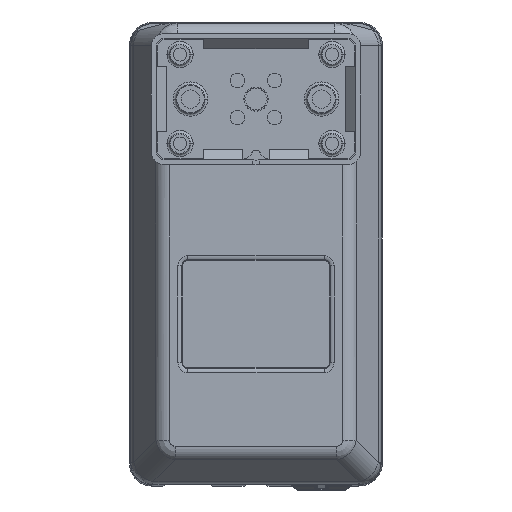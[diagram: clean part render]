
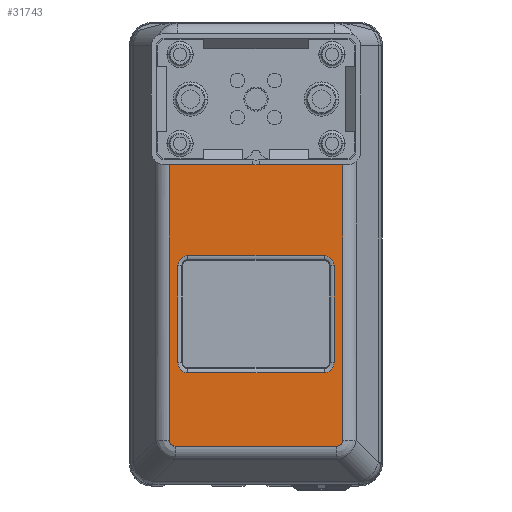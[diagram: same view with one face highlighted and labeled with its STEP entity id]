
A CAD part, front view. The second image highlights one B-rep face of the part: STEP entity #31743.
In plain terms, the highlighted planar face has unit normal (0, -1, 0) as drawn and (0, 1, 0) by its records, which use the part's own axes.
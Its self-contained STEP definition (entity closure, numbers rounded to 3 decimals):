
#20903=DIRECTION('',(-1.,0.,0.));
#20904=VECTOR('',#20903,61.725);
#20905=CARTESIAN_POINT('',(30.863,41.5,-161.378));
#20906=LINE('',#20905,#20904);
#20932=DIRECTION('',(0.,0.,-1.));
#20933=VECTOR('',#20932,109.034);
#20934=CARTESIAN_POINT('',(33.028,41.5,
-50.178));
#20935=LINE('',#20934,#20933);
#21057=CARTESIAN_POINT('',(-28.5,41.5,
-42.4));
#21058=DIRECTION('',(0.,1.,0.));
#21059=DIRECTION('',(0.,0.,-1.));
#21060=AXIS2_PLACEMENT_3D('',#21057,#21058,#21059);
#21062=CARTESIAN_POINT('',(-33.028,41.5,-159.213));
#21063=CARTESIAN_POINT('',(-33.028,41.5,-159.3));
#21064=CARTESIAN_POINT('',(-33.019,41.5,-159.481));
#21065=CARTESIAN_POINT('',(-32.977,41.5,-159.747));
#21066=CARTESIAN_POINT('',(-32.904,41.5,-160.008));
#21067=CARTESIAN_POINT('',(-32.802,41.5,-160.253));
#21068=CARTESIAN_POINT('',(-32.672,41.5,-160.478));
#21069=CARTESIAN_POINT('',(-32.515,41.5,-160.683));
#21070=CARTESIAN_POINT('',(-32.334,41.5,-160.864));
#21071=CARTESIAN_POINT('',(-32.13,41.5,-161.021));
#21072=CARTESIAN_POINT('',(-31.904,41.5,-161.151));
#21073=CARTESIAN_POINT('',(-31.66,41.5,-161.253));
#21074=CARTESIAN_POINT('',(-31.399,41.5,-161.326));
#21075=CARTESIAN_POINT('',(-31.132,41.5,-161.369));
#21076=CARTESIAN_POINT('',(-30.95,41.5,-161.378));
#21077=CARTESIAN_POINT('',(-30.863,41.5,-161.378));
#21079=CARTESIAN_POINT('',(30.863,41.5,-161.378));
#21080=CARTESIAN_POINT('',(30.95,41.5,-161.378));
#21081=CARTESIAN_POINT('',(31.132,41.5,-161.369));
#21082=CARTESIAN_POINT('',(31.399,41.5,-161.326));
#21083=CARTESIAN_POINT('',(31.66,41.5,-161.253));
#21084=CARTESIAN_POINT('',(31.904,41.5,-161.151));
#21085=CARTESIAN_POINT('',(32.13,41.5,-161.021));
#21086=CARTESIAN_POINT('',(32.334,41.5,-160.864));
#21087=CARTESIAN_POINT('',(32.515,41.5,-160.683));
#21088=CARTESIAN_POINT('',(32.672,41.5,-160.478));
#21089=CARTESIAN_POINT('',(32.802,41.5,-160.253));
#21090=CARTESIAN_POINT('',(32.904,41.5,-160.008));
#21091=CARTESIAN_POINT('',(32.977,41.5,-159.747));
#21092=CARTESIAN_POINT('',(33.019,41.5,-159.481));
#21093=CARTESIAN_POINT('',(33.028,41.5,-159.3));
#21094=CARTESIAN_POINT('',(33.028,41.5,-159.213));
#21096=CARTESIAN_POINT('',(28.5,41.5,
-42.4));
#21097=DIRECTION('',(0.,1.,0.));
#21098=DIRECTION('',(0.503,0.,-0.864));
#21099=AXIS2_PLACEMENT_3D('',#21096,#21097,#21098);
#21101=CARTESIAN_POINT('',(26.,41.5,-129.5));
#21102=DIRECTION('',(0.,1.,0.));
#21103=DIRECTION('',(1.,0.,0.));
#21104=AXIS2_PLACEMENT_3D('',#21101,#21102,#21103);
#21106=CARTESIAN_POINT('',(-26.,41.5,-129.5));
#21107=DIRECTION('',(0.,1.,0.));
#21108=DIRECTION('',(0.,0.,-1.));
#21109=AXIS2_PLACEMENT_3D('',#21106,#21107,#21108);
#21111=CARTESIAN_POINT('',(-26.,41.5,-92.5));
#21112=DIRECTION('',(0.,1.,0.));
#21113=DIRECTION('',(-1.,0.,0.));
#21114=AXIS2_PLACEMENT_3D('',#21111,#21112,#21113);
#21116=CARTESIAN_POINT('',(26.,41.5,-92.5));
#21117=DIRECTION('',(0.,1.,0.));
#21118=DIRECTION('',(0.,0.,1.));
#21119=AXIS2_PLACEMENT_3D('',#21116,#21117,#21118);
#21121=DIRECTION('',(1.,0.,0.));
#21122=VECTOR('',#21121,57.);
#21123=CARTESIAN_POINT('',(-28.5,41.5,-51.4));
#21124=LINE('',#21123,#21122);
#21298=DIRECTION('',(0.,0.,1.));
#21299=VECTOR('',#21298,109.034);
#21300=CARTESIAN_POINT('',(-33.028,41.5,-159.213));
#21301=LINE('',#21300,#21299);
#21393=DIRECTION('',(0.,0.,1.));
#21394=VECTOR('',#21393,37.);
#21395=CARTESIAN_POINT('',(29.803,41.5,-129.5));
#21396=LINE('',#21395,#21394);
#21416=DIRECTION('',(-1.,0.,0.));
#21417=VECTOR('',#21416,52.);
#21418=CARTESIAN_POINT('',(26.,41.5,-88.697));
#21419=LINE('',#21418,#21417);
#21439=DIRECTION('',(0.,0.,-1.));
#21440=VECTOR('',#21439,37.);
#21441=CARTESIAN_POINT('',(-29.803,41.5,-92.5));
#21442=LINE('',#21441,#21440);
#21462=DIRECTION('',(1.,0.,0.));
#21463=VECTOR('',#21462,52.);
#21464=CARTESIAN_POINT('',(-26.,41.5,-133.303));
#21465=LINE('',#21464,#21463);
#27947=CARTESIAN_POINT('',(-28.5,41.5,-51.4));
#27948=CARTESIAN_POINT('',(28.5,41.5,-51.4));
#27949=VERTEX_POINT('',#27947);
#27950=VERTEX_POINT('',#27948);
#27951=CARTESIAN_POINT('',(-33.028,41.5,-50.178));
#27952=VERTEX_POINT('',#27951);
#27953=CARTESIAN_POINT('',(-33.028,41.5,-159.213));
#27954=VERTEX_POINT('',#27953);
#27955=VERTEX_POINT('',#21077);
#27956=CARTESIAN_POINT('',(30.863,41.5,-161.378));
#27957=VERTEX_POINT('',#27956);
#27958=VERTEX_POINT('',#21094);
#27959=CARTESIAN_POINT('',(33.028,41.5,
-50.178));
#27960=VERTEX_POINT('',#27959);
#27961=CARTESIAN_POINT('',(29.803,41.5,-129.5));
#27962=CARTESIAN_POINT('',(26.,41.5,-133.303));
#27963=VERTEX_POINT('',#27961);
#27964=VERTEX_POINT('',#27962);
#27965=CARTESIAN_POINT('',(-26.,41.5,-133.303));
#27966=VERTEX_POINT('',#27965);
#27967=CARTESIAN_POINT('',(-29.803,41.5,-129.5));
#27968=VERTEX_POINT('',#27967);
#27969=CARTESIAN_POINT('',(-29.803,41.5,-92.5));
#27970=VERTEX_POINT('',#27969);
#27971=CARTESIAN_POINT('',(-26.,41.5,-88.697));
#27972=VERTEX_POINT('',#27971);
#27973=CARTESIAN_POINT('',(26.,41.5,-88.697));
#27974=VERTEX_POINT('',#27973);
#27975=CARTESIAN_POINT('',(29.803,41.5,-92.5));
#27976=VERTEX_POINT('',#27975);
#31707=CARTESIAN_POINT('',(36.492,41.5,0.));
#31708=DIRECTION('',(0.,1.,0.));
#31709=DIRECTION('',(-1.,0.,0.));
#31710=AXIS2_PLACEMENT_3D('',#31707,#31708,#31709);
#31711=PLANE('',#31710);
#31713=ORIENTED_EDGE('',*,*,#31712,.F.);
#31715=ORIENTED_EDGE('',*,*,#31714,.T.);
#31717=ORIENTED_EDGE('',*,*,#31716,.F.);
#31718=ORIENTED_EDGE('',*,*,#31347,.T.);
#31719=ORIENTED_EDGE('',*,*,#31362,.F.);
#31720=ORIENTED_EDGE('',*,*,#31443,.T.);
#31721=ORIENTED_EDGE('',*,*,#31457,.F.);
#31722=ORIENTED_EDGE('',*,*,#31685,.T.);
#31723=EDGE_LOOP('',(#31713,#31715,#31717,#31718,#31719,#31720,#31721,#31722));
#31724=FACE_OUTER_BOUND('',#31723,.F.);
#31726=ORIENTED_EDGE('',*,*,#31725,.T.);
#31728=ORIENTED_EDGE('',*,*,#31727,.F.);
#31730=ORIENTED_EDGE('',*,*,#31729,.T.);
#31732=ORIENTED_EDGE('',*,*,#31731,.F.);
#31734=ORIENTED_EDGE('',*,*,#31733,.T.);
#31736=ORIENTED_EDGE('',*,*,#31735,.F.);
#31738=ORIENTED_EDGE('',*,*,#31737,.T.);
#31740=ORIENTED_EDGE('',*,*,#31739,.F.);
#31741=EDGE_LOOP('',(#31726,#31728,#31730,#31732,#31734,#31736,#31738,#31740));
#31742=FACE_BOUND('',#31741,.F.);
#21061=CIRCLE('',#21060,9.);
#21078=B_SPLINE_CURVE_WITH_KNOTS('',3,(#21062,#21063,#21064,#21065,#21066,
#21067,#21068,#21069,#21070,#21071,#21072,#21073,#21074,#21075,#21076,#21077),
.UNSPECIFIED.,.F.,.F.,(4,1,1,1,1,1,1,1,1,1,1,1,1,4),(0.,0.072,
0.151,0.229,0.307,0.384,
0.461,0.538,0.615,0.692,
0.77,0.848,0.927,1.),.UNSPECIFIED.);
#21095=B_SPLINE_CURVE_WITH_KNOTS('',3,(#21079,#21080,#21081,#21082,#21083,
#21084,#21085,#21086,#21087,#21088,#21089,#21090,#21091,#21092,#21093,#21094),
.UNSPECIFIED.,.F.,.F.,(4,1,1,1,1,1,1,1,1,1,1,1,1,4),(0.,0.073,
0.152,0.23,0.308,0.385,
0.462,0.539,0.616,0.693,
0.771,0.849,0.928,1.),.UNSPECIFIED.);
#21100=CIRCLE('',#21099,9.);
#21105=CIRCLE('',#21104,3.803);
#21110=CIRCLE('',#21109,3.803);
#21115=CIRCLE('',#21114,3.803);
#21120=CIRCLE('',#21119,3.803);
#31347=EDGE_CURVE('',#27954,#27955,#21078,.T.);
#31362=EDGE_CURVE('',#27957,#27955,#20906,.T.);
#31443=EDGE_CURVE('',#27957,#27958,#21095,.T.);
#31457=EDGE_CURVE('',#27960,#27958,#20935,.T.);
#31685=EDGE_CURVE('',#27960,#27950,#21100,.T.);
#31712=EDGE_CURVE('',#27949,#27950,#21124,.T.);
#31714=EDGE_CURVE('',#27949,#27952,#21061,.T.);
#31716=EDGE_CURVE('',#27954,#27952,#21301,.T.);
#31725=EDGE_CURVE('',#27963,#27964,#21105,.T.);
#31727=EDGE_CURVE('',#27966,#27964,#21465,.T.);
#31729=EDGE_CURVE('',#27966,#27968,#21110,.T.);
#31731=EDGE_CURVE('',#27970,#27968,#21442,.T.);
#31733=EDGE_CURVE('',#27970,#27972,#21115,.T.);
#31735=EDGE_CURVE('',#27974,#27972,#21419,.T.);
#31737=EDGE_CURVE('',#27974,#27976,#21120,.T.);
#31739=EDGE_CURVE('',#27963,#27976,#21396,.T.);
#31743=ADVANCED_FACE('',(#31724,#31742),#31711,.T.);
